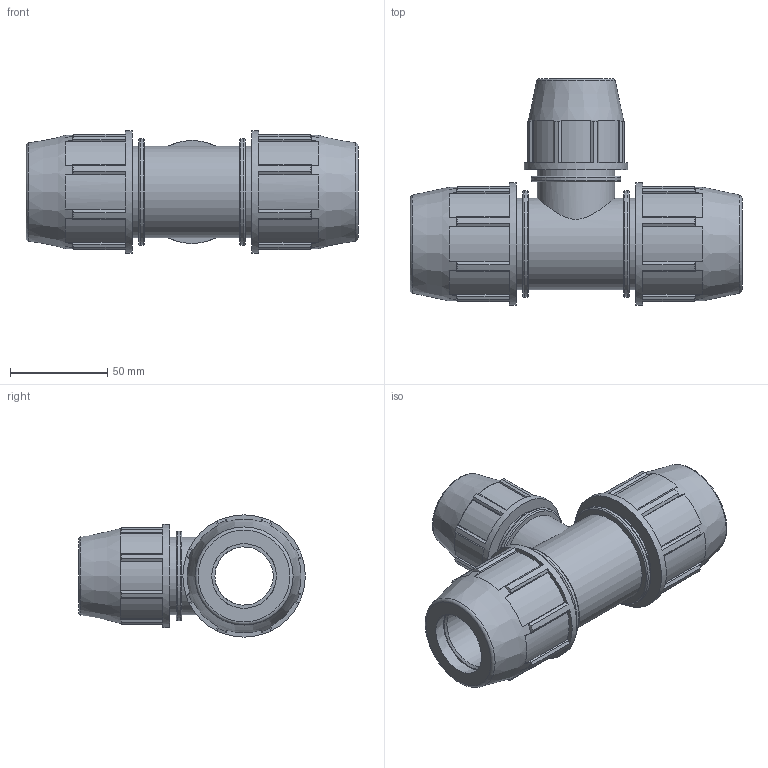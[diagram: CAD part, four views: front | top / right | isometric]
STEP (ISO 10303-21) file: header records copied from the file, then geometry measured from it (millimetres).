
FILE_DESCRIPTION(/* description */ ('PLASSON REDUCING TEE 1'''' - 3/4'''' - 1'''''),/* implementation_level */ '2;1');
FILE_NAME(/* name */ 'C:\Dropbox\KIMPROJECTS-Inventor 2019\99-16-3568-Processing Inch\ASTM Compression 2021\0734M0\0734M0010007.ipt.stp',/* time_stamp */ '2021-08-26T12:33:51+03:00',/* author */ ('Кирилл'),/* organization */ (''),/* preprocessor_version */ 'ST-DEVELOPER v17.2',/* originating_system */ 'Autodesk Inventor 2019',/* authorisation */ '');
FILE_SCHEMA (('AUTOMOTIVE_DESIGN { 1 0 10303 214 3 1 1 }'));
Length unit declared in the file: inch
Products named in the file (1): 0734M0010007
Bounding box: 170.94 x 116.59 x 62.99 mm (x, y, z)
Volume: 322094.9 mm3; surface area: 73520.1 mm2
Topology: 1 solids, 1 shells, 215 faces, 638 edges, 438 vertices
Faces by surface type: plane 138, cylinder 42, cone 26, torus 9
Full cylindrical faces by diameter (mm): 23.94 x1, 26.6 x1, 29.97 x1, 33.3 x2, 39.814 x2, 46.185 x1, 47.244 x3, 53.086 x1, 54.803 x2, 62.992 x2
Entity records: 7691 total; most frequent: CARTESIAN_POINT 1543, ORIENTED_EDGE 1276, DIRECTION 1239, EDGE_CURVE 638, AXIS2_PLACEMENT_3D 444, VERTEX_POINT 438, LINE 351, VECTOR 351
